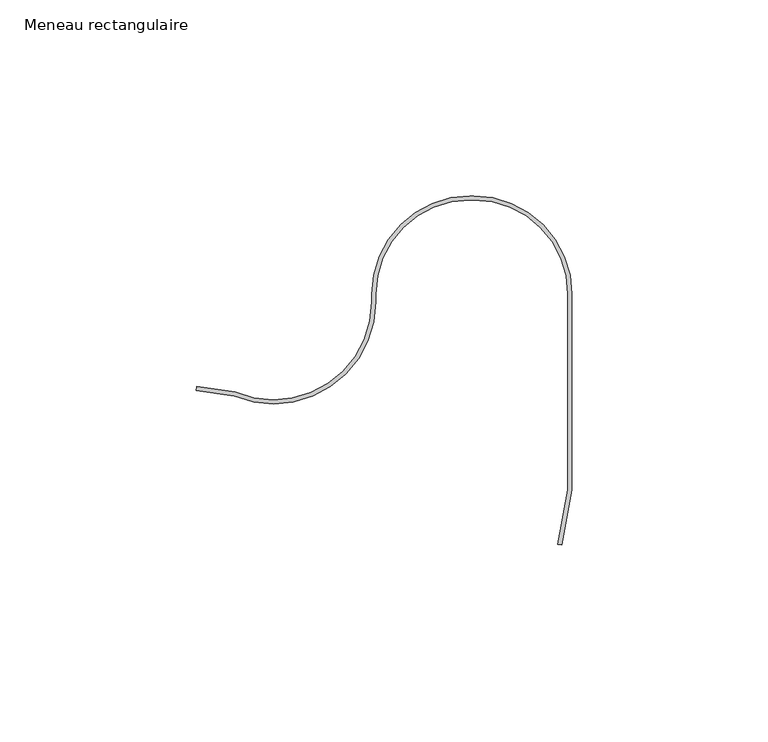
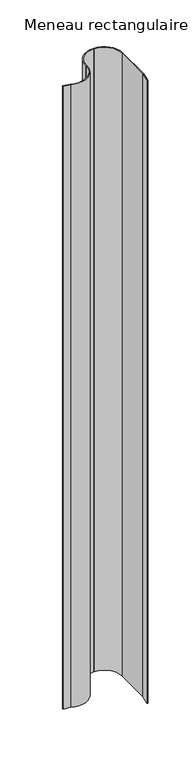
"""IFC4 building model written with IfcOpenShell, lengths in millimetres: member geometry, Meneau rectangulaire : Jonction contre mur Gauche V."""

from ifc_helpers import new_model, si_unit, point, frame, frame_2d, origin, place, context, project, spatial, polyline, circle_curve, trimmed, segment, composite_curve, outline, extrude, source, transform, mapped, element, save


def meneau_rectangulaire_234a4937(model_context):
    return source(origin(), model_context, "Body", "SweptSolid", [
        extrude(outline(composite_curve([segment(polyline([(-1.0, -25.3470857), (-1.0, 24.6529143)]), True, "CONTINUOUS"), segment(trimmed(circle_curve(frame_2d((-25.0, 24.6529143)), 24.0), [point((-1.0, 24.6529143))], [point((-25.0, 48.6529143))], True, "CARTESIAN"), True, "CONTINUOUS"), segment(polyline([(-25.0, 48.6529143), (-26.0, 48.6529143)]), True, "CONTINUOUS"), segment(trimmed(circle_curve(frame_2d((-26.0, 24.6529143)), 24.0), [point((-26.0, 48.6529143))], [point((-50.0, 24.6529143))], True, "CARTESIAN"), True, "CONTINUOUS"), segment(polyline([(-50.0, 24.6529143), (-50.0, 22.6317013)]), True, "CONTINUOUS"), segment(trimmed(circle_curve(frame_2d((-76.0, 22.6317013)), 26.0), [point((-50.0, 22.6317013))], [point((-86.0341553, -1.3540388))], False, "CARTESIAN"), True, "CONTINUOUS"), segment(polyline([(-86.0341553, -1.3540388), (-95.8078149, 0.0195595), (-95.6686418, 1.0098276), (-85.7659612, -0.3819034)]), True, "CONTINUOUS"), segment(trimmed(circle_curve(frame_2d((-76.0, 22.6317013)), 25.0), [point((-85.7659612, -0.3819034))], [point((-51.0, 22.6317013))], True, "CARTESIAN"), True, "CONTINUOUS"), segment(polyline([(-51.0, 22.6317013), (-51.0, 24.6529143)]), True, "CONTINUOUS"), segment(trimmed(circle_curve(frame_2d((-26.0, 24.6529143)), 25.0), [point((-51.0, 24.6529143))], [point((-26.0, 49.6529143))], False, "CARTESIAN"), True, "CONTINUOUS"), segment(polyline([(-26.0, 49.6529143), (-25.0, 49.6529143)]), True, "CONTINUOUS"), segment(trimmed(circle_curve(frame_2d((-25.0, 24.6529143)), 25.0), [point((-25.0, 49.6529143))], [point((0.0, 24.6529143))], False, "CARTESIAN"), True, "CONTINUOUS"), segment(polyline([(0.0, 24.6529143), (0.0, -25.3470857), (-2.6384309, -39.3947769), (-3.6043568, -39.2133572), (-1.0, -25.3470857)]), True, "CONTINUOUS")], self_intersect=False)), frame((0.0, 0.0, -900.0), z_axis=(0.0, 0.0, 1.0), x_axis=(1.0, 0.0, 0.0)), (0.0, 0.0, 1.0), 900.0),
    ])


if __name__ == "__main__":
    model = new_model("IFC4")
    model_context = context("Model", 3, world=origin())
    ifc_project = project(units=[si_unit("LENGTHUNIT", "METRE", prefix="MILLI")], contexts=[model_context])
    site = spatial("IfcSite", under=ifc_project)
    building = spatial("IfcBuilding", under=site)
    placement = place(None, origin())
    meneau_rectangulaire_shape = meneau_rectangulaire_234a4937(model_context)
    element("IfcMember", 1, ObjectType="Meneau rectangulaire : Jonction contre mur Gauche V", at=placement, inside=building, context=model_context, shape_type="MappedRepresentation", body=[
        mapped(meneau_rectangulaire_shape, transform((0.0, 0.0, 0.0), x_axis=(1.0, 0.0, 0.0), y_axis=(0.0, 1.0, 0.0), z_axis=(0.0, 0.0, 1.0))),
    ])
    save(model, "model.ifc")
